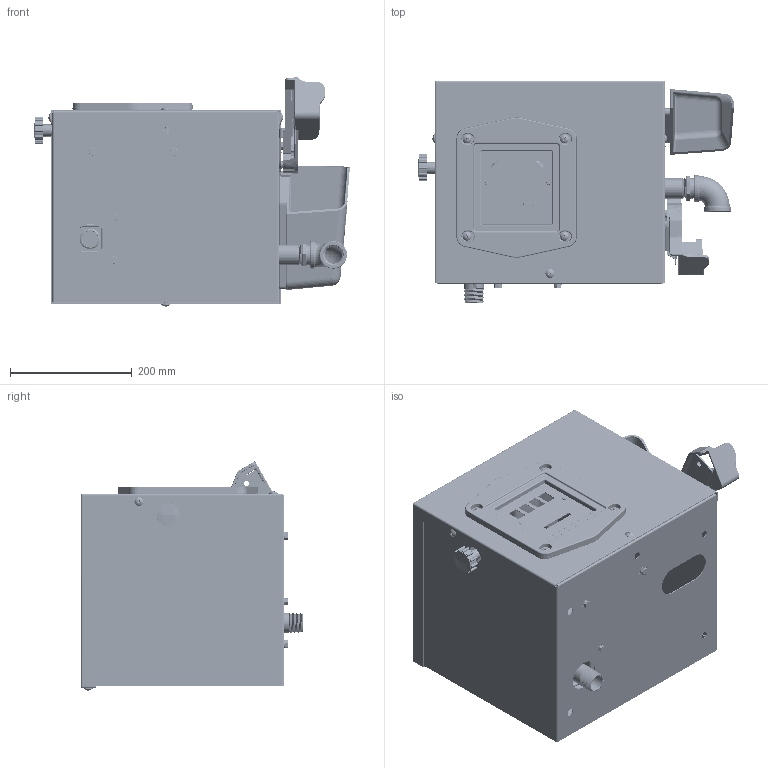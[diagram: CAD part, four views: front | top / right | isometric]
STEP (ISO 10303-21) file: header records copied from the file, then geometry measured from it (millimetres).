
FILE_DESCRIPTION(/* description */ (''),/* implementation_level */ '2;1');
FILE_NAME(/* name */ 'G:\PUBLIC\MKTG\Laura\WEBSITE PUMP MODEL STP\143651-01_REMOTE_DISPENSER.stp',/* time_stamp */ '2017-07-12T09:02:33-05:00',/* author */ ('gdonbak'),/* organization */ (''),/* preprocessor_version */ 'ST-DEVELOPER v16.5',/* originating_system */ 'Autodesk Inventor 2017',/* authorisation */ '');
FILE_SCHEMA (('AUTOMOTIVE_DESIGN { 1 0 10303 214 3 1 1 }'));
Products named in the file (1): 143651-01_WEBSITE_MODEL_Shrinkwrap_1
Bounding box: 518.81 x 365.02 x 376.51 mm (x, y, z)
Surface area: 2227880.5 mm2 (no closed solid volume)
Topology: 0 solids, 41 shells, 4462 faces, 11276 edges, 6958 vertices
Faces by surface type: plane 1640, cylinder 961, bspline 768, cone 646, torus 356, sphere 91
Full cylindrical faces by diameter (mm): 2.794 x2, 3.124 x5, 3.353 x4, 3.607 x2, 3.937 x2, 4.191 x2, 4.216 x1, 5.752 x1, 6.35 x15, 6.731 x1, 6.858 x2, 6.909 x7, 7.061 x1, 7.784 x1, 7.806 x1, 7.938 x8, 8.433 x20, 8.738 x8, 9.144 x1, 9.652 x1, 11.125 x7, 11.43 x1, 11.887 x5, 12.827 x7, 14.554 x9, 17.221 x1, 19.812 x1, 20.828 x1, 23.876 x1, 26.645 x2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
Entity records: 185859 total; most frequent: CARTESIAN_POINT 81243, ORIENTED_EDGE 21060, DIRECTION 20266, EDGE_CURVE 10530, AXIS2_PLACEMENT_3D 7664, VERTEX_POINT 6651, EDGE_LOOP 4975, LINE 4938
